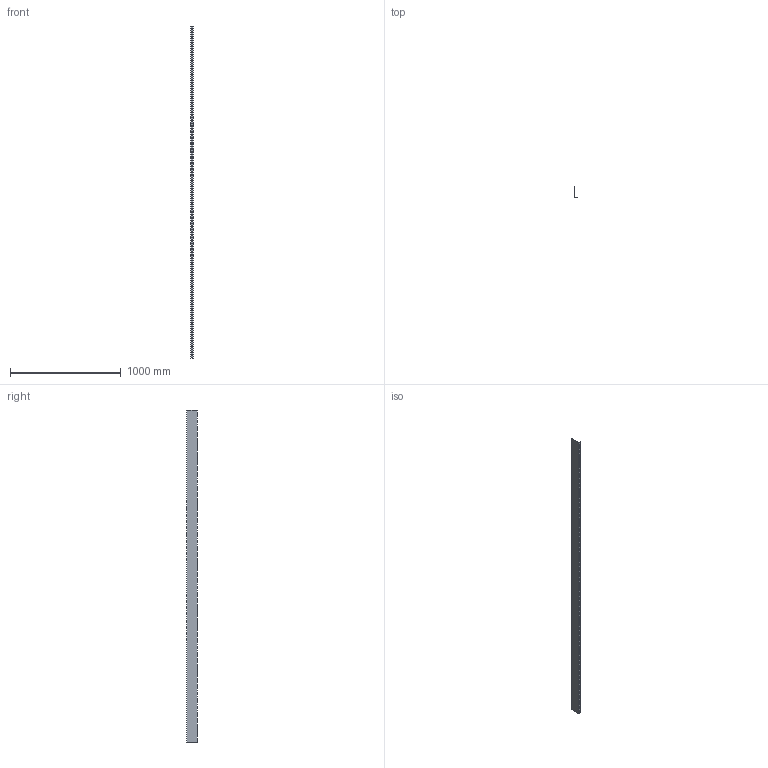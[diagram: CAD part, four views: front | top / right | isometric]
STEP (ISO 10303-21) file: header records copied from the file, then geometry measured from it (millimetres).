
FILE_DESCRIPTION (( 'STEP AP214' ), '1' );
FILE_NAME ('52D3D.step', '2025-02-21T10:28:12', ( '' ), ( '' ), 'SwSTEP 2.0', 'SolidWorks 2023', '' );
FILE_SCHEMA (( 'AUTOMOTIVE_DESIGN' ));
Length unit declared in the file: millimetre
Products named in the file (1): 52D3D
Bounding box: 27 x 98 x 3000 mm (x, y, z)
Volume: 288000 mm3; surface area: 728685.1 mm2
Topology: 1 solids, 1 shells, 296 faces, 882 edges, 588 vertices
Faces by surface type: plane 296
Entity records: 10037 total; most frequent: CARTESIAN_POINT 1767, ORIENTED_EDGE 1764, DIRECTION 1476, LINE 882, EDGE_CURVE 882, VECTOR 882, VERTEX_POINT 588, EDGE_LOOP 440
